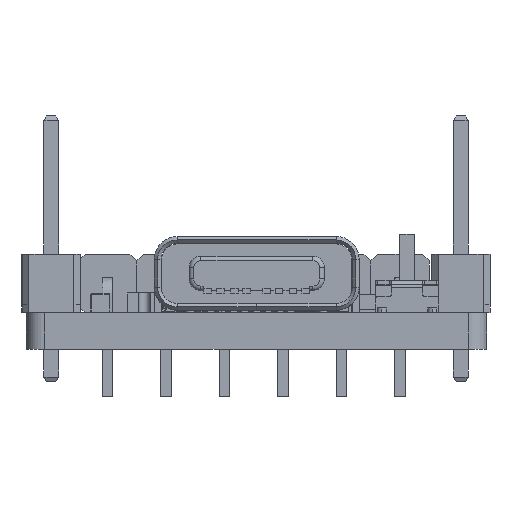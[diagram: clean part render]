
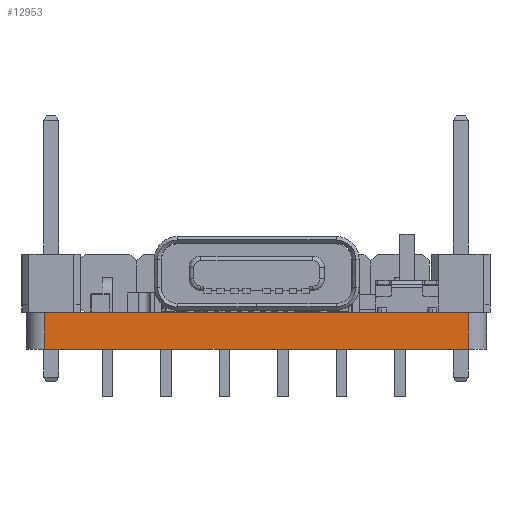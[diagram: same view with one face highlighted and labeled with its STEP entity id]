
A CAD part, left-side view. The second image highlights one B-rep face of the part: STEP entity #12953.
In plain terms, the highlighted planar face has unit normal (-1, 0, 0).
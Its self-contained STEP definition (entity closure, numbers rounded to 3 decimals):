
#11772=PLANE('',#47829);
#12953=ADVANCED_FACE('',(#15786),#11772,.T.);
#15786=FACE_OUTER_BOUND('',#17946,.T.);
#17946=EDGE_LOOP('',(#21718,#21719,#21720,#21721));
#21718=ORIENTED_EDGE('',*,*,#35751,.T.);
#21719=ORIENTED_EDGE('',*,*,#35753,.T.);
#21720=ORIENTED_EDGE('',*,*,#35754,.F.);
#21721=ORIENTED_EDGE('',*,*,#35755,.F.);
#32392=VERTEX_POINT('',#61660);
#32393=VERTEX_POINT('',#61662);
#32394=VERTEX_POINT('',#61666);
#32395=VERTEX_POINT('',#61668);
#35751=EDGE_CURVE('',#32393,#32392,#41088,.T.);
#35753=EDGE_CURVE('',#32392,#32394,#41089,.T.);
#35754=EDGE_CURVE('',#32395,#32394,#41090,.T.);
#35755=EDGE_CURVE('',#32393,#32395,#41091,.T.);
#41088=LINE('',#61661,#44457);
#41089=LINE('',#61665,#44458);
#41090=LINE('',#61667,#44459);
#41091=LINE('',#61669,#44460);
#44457=VECTOR('',#51317,1.);
#44458=VECTOR('',#51322,1.);
#44459=VECTOR('',#51323,1.);
#44460=VECTOR('',#51324,1.);
#47829=AXIS2_PLACEMENT_3D('',#61670,#51325,#51326);
#51317=DIRECTION('',(0.,0.,1.));
#51322=DIRECTION('',(0.,1.,0.));
#51323=DIRECTION('',(0.,0.,1.));
#51324=DIRECTION('',(0.,1.,0.));
#51325=DIRECTION('',(-1.,0.,0.));
#51326=DIRECTION('',(0.,-1.,0.));
#61660=CARTESIAN_POINT('',(0.25,0.959,0.411));
#61661=CARTESIAN_POINT('',(0.25,0.959,0.));
#61662=CARTESIAN_POINT('',(0.25,0.959,-1.189));
#61665=CARTESIAN_POINT('',(0.25,0.8,0.411));
#61666=CARTESIAN_POINT('',(0.25,19.361,0.411));
#61667=CARTESIAN_POINT('',(0.25,19.361,0.));
#61668=CARTESIAN_POINT('',(0.25,19.361,-1.189));
#61669=CARTESIAN_POINT('',(0.25,19.521,-1.189));
#61670=CARTESIAN_POINT('',(0.25,0.8,0.));
